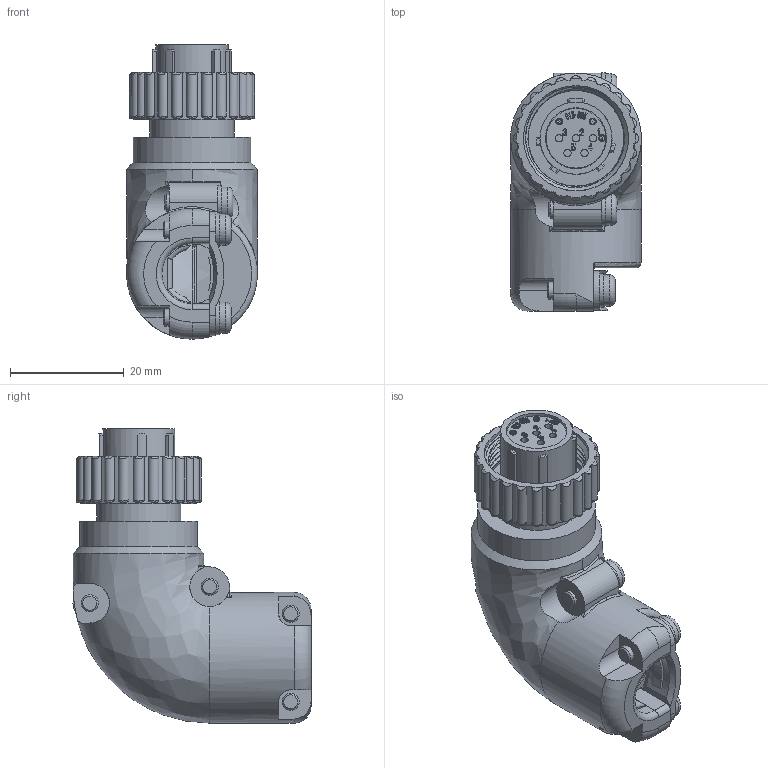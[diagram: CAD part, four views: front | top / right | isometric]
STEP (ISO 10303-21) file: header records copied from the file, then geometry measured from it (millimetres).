
FILE_DESCRIPTION (( 'STEP AP203' ), '1' );
FILE_NAME ('JMLP1305FM-D.STEP', '2021-07-02T04:12:41', ( '' ), ( '' ), 'SwSTEP 2.0', 'SolidWorks 2018', '' );
FILE_SCHEMA (( 'CONFIG_CONTROL_DESIGN' ));
Length unit declared in the file: millimetre
Products named in the file (1): JMLP1305FM-D
Bounding box: 23 x 41.9 x 51.78 mm (x, y, z)
Volume: 14326.9 mm3; surface area: 11058.3 mm2
Topology: 1 solids, 1 shells, 903 faces, 2461 edges, 1617 vertices
Faces by surface type: plane 392, bspline 275, cylinder 175, cone 42, torus 19
Full cylindrical faces by diameter (mm): 0.9 x3, 1.1 x5, 1.2 x3, 1.3 x5, 1.55 x5, 3 x4, 5.5 x4, 10.3 x1, 10.5 x1, 10.6 x1, 10.7 x1, 12 x1, 12.7 x1, 14.7 x1, 14.8 x1, 16.8 x1, 18.1 x2, 18.5 x1, 20.5 x1, 20.7 x1, 23 x1
Entity records: 42878 total; most frequent: CARTESIAN_POINT 22560, ORIENTED_EDGE 4736, DIRECTION 3206, EDGE_CURVE 2368, VERTEX_POINT 1593, VECTOR 1126, LINE 1126, AXIS2_PLACEMENT_3D 1040
